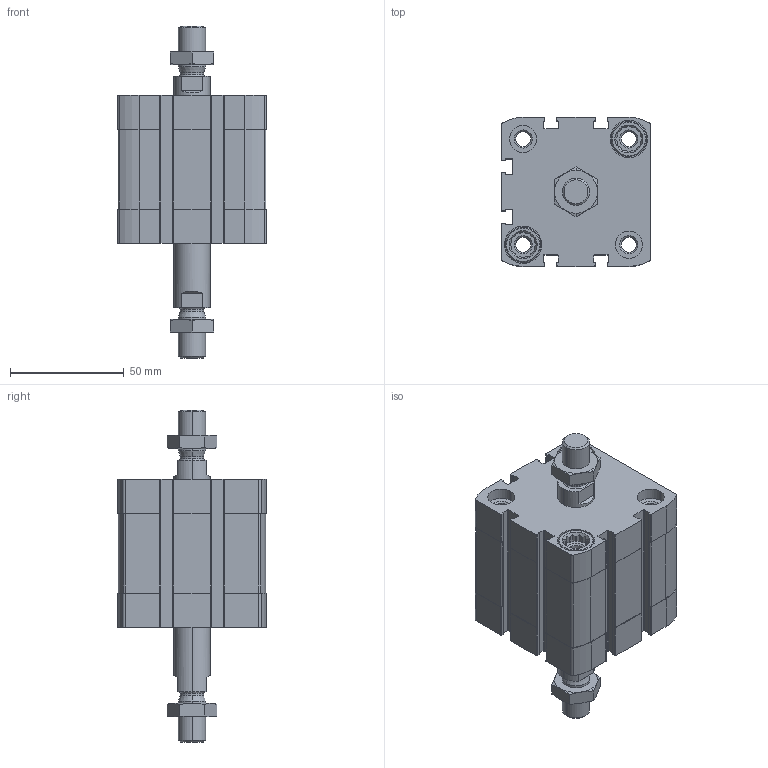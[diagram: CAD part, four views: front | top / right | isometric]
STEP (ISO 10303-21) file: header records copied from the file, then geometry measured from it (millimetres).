
FILE_DESCRIPTION (( 'STEP AP203' ), '1' );
FILE_NAME ('CCN50-20-P.STEP', '2020-06-22T18:56:23', ( '' ), ( '' ), 'SwSTEP 2.0', 'SolidWorks 2019', '' );
FILE_SCHEMA (( 'CONFIG_CONTROL_DESIGN' ));
Length unit declared in the file: millimetre
Products named in the file (1): CCN50-20-P
Bounding box: 65.5 x 65.5 x 146 mm (x, y, z)
Volume: 227353.1 mm3; surface area: 62604.3 mm2
Topology: 4 solids, 4 shells, 528 faces, 1392 edges, 904 vertices
Faces by surface type: plane 240, cylinder 220, cone 60, torus 8
Entity records: 17219 total; most frequent: CARTESIAN_POINT 3821, DIRECTION 2842, ORIENTED_EDGE 2784, EDGE_CURVE 1392, AXIS2_PLACEMENT_3D 1045, VERTEX_POINT 904, LINE 752, VECTOR 752
